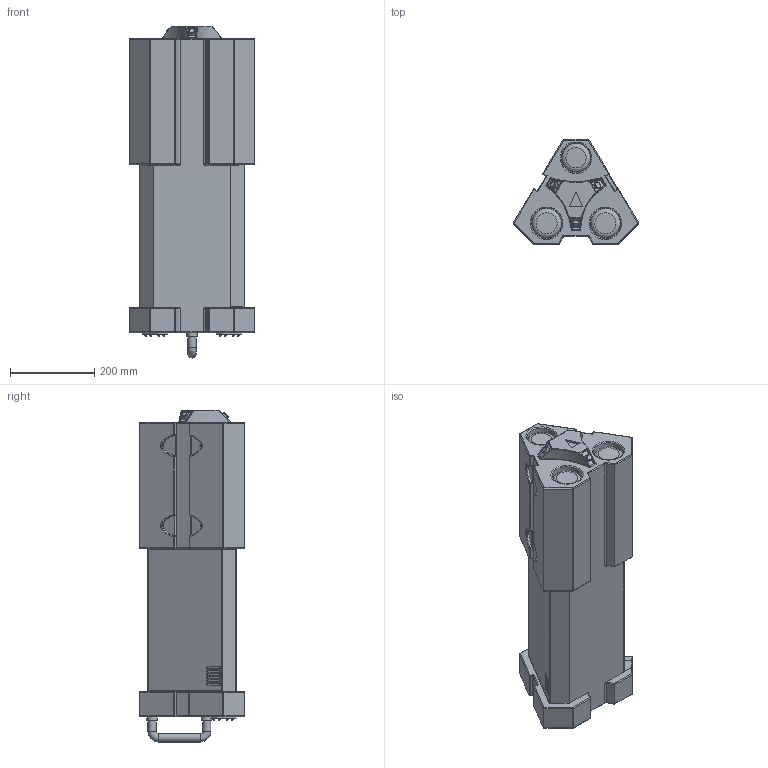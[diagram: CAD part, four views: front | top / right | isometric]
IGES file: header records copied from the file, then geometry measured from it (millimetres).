
Global section: file name: abject sifi 2 v5; native system: unknown; preprocessor: unknown; author: unknown; organization: unknown; date: 20220627.135041; units: centimetre
Bounding box: 298.96 x 250 x 790 mm (x, y, z)
Volume: 27626891.9 mm3; surface area: 758980.2 mm2
Topology: 1 solids, 1 shells, 800 faces, 1824 edges, 1070 vertices
Faces by surface type: bspline 800
